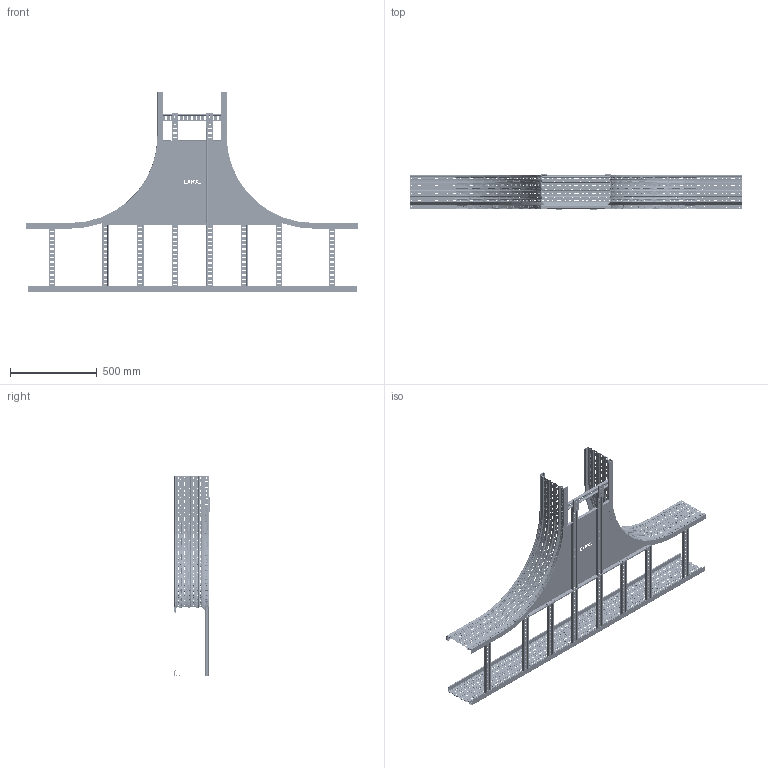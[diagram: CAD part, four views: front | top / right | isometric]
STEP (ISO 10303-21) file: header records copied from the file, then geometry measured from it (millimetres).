
FILE_DESCRIPTION (( 'STEP AP203' ), '1' );
FILE_NAME ('Ò- îòâåòâèòåëü H-200 ëåñòíè÷íûé.STEP', '2015-01-23T07:31:33', ( '' ), ( '' ), 'SwSTEP 2.0', 'SolidWorks 2014', '' );
FILE_SCHEMA (( 'CONFIG_CONTROL_DESIGN' ));
Length unit declared in the file: millimetre
Products named in the file (10): ëîíæåðîí ïðÿìîé H200 LAST_1900; òðàâåðñà äëèííàÿ  39x19x1.5 T-îòâåòâèòåëü_400(975,6); BMD-10 plate_34009HDZ; ﾎ魵瑙韃 蓁 ⅳ粢頸褄裨_base DPT DPX 1,0-400; Pan Head Cross Recess Screw_DIN_ISO 7045 - M6 x 10 - Z --- 10C; Hex Nut GradeC_DIN_Hexagon Nut ISO 4034 - M6 - C; 栖闉罻2; 呧翲歑鍙 碴麔謥臇鴇 200; Ò- îòâåòâèòåëü H-200 ëåñòíè÷íûé; Traversino 39x19x1.5_1_400:(1,2)
Assembly tree (18 placements, depth 3):
  Ò- îòâåòâèòåëü H-200 ëåñòíè÷íûé
    呧翲歑鍙 碴麔謥臇鴇 200  x2
    Traversino 39x19x1.5_1_400:(1,2)  x7
    ëîíæåðîí ïðÿìîé H200 LAST_1900
    òðàâåðñà äëèííàÿ  39x19x1.5 T-îòâåòâèòåëü_400(975,6)  x2
    BMD-10 plate_34009HDZ  x2
    ﾎ魵瑙韃 蓁 ⅳ粢頸褄裨_base DPT DPX 1,0-400
    栖闉罻2
      Pan Head Cross Recess Screw_DIN_ISO 7045 - M6 x 10 - Z --- 10C
      Hex Nut GradeC_DIN_Hexagon Nut ISO 4034 - M6 - C
Bounding box: 1913.8 x 202.4 x 1158.1 mm (x, y, z)
Volume: 3055908.8 mm3; surface area: 4369180.6 mm2
Topology: 17 solids, 17 shells, 9351 faces, 26493 edges, 17263 vertices
Faces by surface type: plane 4625, cylinder 3988, bspline 618, torus 88, cone 30, sphere 2
Entity records: 199922 total; most frequent: CARTESIAN_POINT 57436, ORIENTED_EDGE 30366, DIRECTION 27679, EDGE_CURVE 15183, VERTEX_POINT 9942, VECTOR 9233, LINE 9233, AXIS2_PLACEMENT_3D 9223
